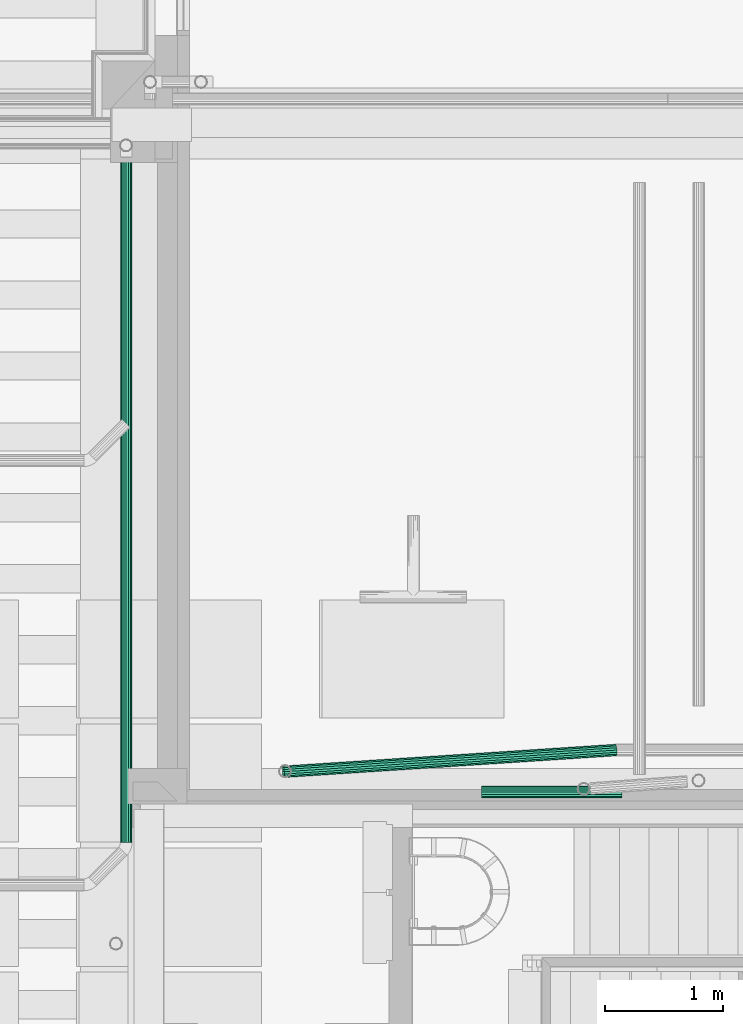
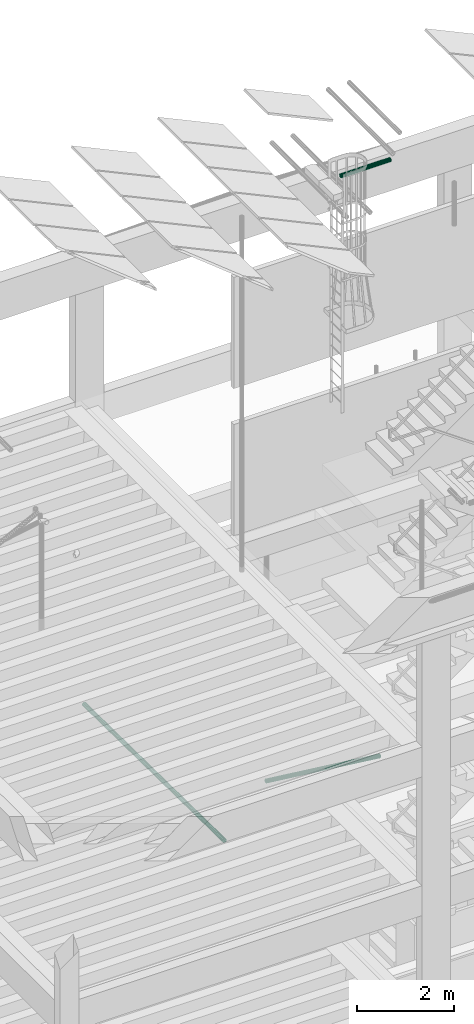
# One storey, part 51 of 106: 3 flow segments.
"""IFC2X3 building model written with IfcOpenShell, lengths in metres."""

from ifc_helpers import new_model, entity, si_unit, converted_unit, derived_unit, money_unit, direction, frame, origin_with_axes, place, context, subcontext, project, spatial, faceted_brep, material, type_object, element, save


model = new_model("IFC2X3")

# Units and contexts
model_context = context("Model", 3, precision=1e-05, world=origin_with_axes(), true_north=direction((0.0, 1.0)))
body_context = subcontext(model_context, "Body", "Model", "MODEL_VIEW", scale=1.0)
ifc_project = project(units=[si_unit("LENGTHUNIT", "METRE"), si_unit("AREAUNIT", "SQUARE_METRE"), si_unit("VOLUMEUNIT", "CUBIC_METRE"), si_unit("ABSORBEDDOSEUNIT", "GRAY"), si_unit("AMOUNTOFSUBSTANCEUNIT", "MOLE"), si_unit("DOSEEQUIVALENTUNIT", "SIEVERT"), si_unit("ELECTRICCAPACITANCEUNIT", "FARAD"), si_unit("ELECTRICCHARGEUNIT", "COULOMB"), si_unit("ELECTRICCONDUCTANCEUNIT", "SIEMENS"), si_unit("ELECTRICCURRENTUNIT", "AMPERE"), si_unit("ELECTRICRESISTANCEUNIT", "OHM"), si_unit("ELECTRICVOLTAGEUNIT", "VOLT"), si_unit("ENERGYUNIT", "JOULE"), si_unit("FORCEUNIT", "NEWTON"), si_unit("FREQUENCYUNIT", "HERTZ"), si_unit("ILLUMINANCEUNIT", "LUX"), si_unit("INDUCTANCEUNIT", "HENRY"), si_unit("LUMINOUSFLUXUNIT", "LUMEN"), si_unit("LUMINOUSINTENSITYUNIT", "CANDELA"), si_unit("MAGNETICFLUXDENSITYUNIT", "TESLA"), si_unit("MAGNETICFLUXUNIT", "WEBER"), si_unit("MASSUNIT", "GRAM"), converted_unit("PLANEANGLEUNIT", "degree", entity("IfcReal", 0.0174532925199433), si_unit("PLANEANGLEUNIT", "RADIAN"), dimensions=[0, 0, 0, 0, 0, 0, 0]), si_unit("POWERUNIT", "WATT"), si_unit("PRESSUREUNIT", "PASCAL"), si_unit("RADIOACTIVITYUNIT", "BECQUEREL"), si_unit("SOLIDANGLEUNIT", "STERADIAN"), si_unit("THERMODYNAMICTEMPERATUREUNIT", "KELVIN"), si_unit("TIMEUNIT", "SECOND"), derived_unit("ACCELERATIONUNIT", [(si_unit("LENGTHUNIT", "METRE"), 1), (si_unit("TIMEUNIT", "SECOND"), -2)]), derived_unit("ANGULARVELOCITYUNIT", [(converted_unit("PLANEANGLEUNIT", "degree", entity("IfcReal", 0.0174532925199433), si_unit("PLANEANGLEUNIT", "RADIAN"), dimensions=[0, 0, 0, 0, 0, 0, 0]), 1), (si_unit("TIMEUNIT", "SECOND"), -1)]), derived_unit("CURVATUREUNIT", [(converted_unit("PLANEANGLEUNIT", "degree", entity("IfcReal", 0.0174532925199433), si_unit("PLANEANGLEUNIT", "RADIAN"), dimensions=[0, 0, 0, 0, 0, 0, 0]), 1), (si_unit("LENGTHUNIT", "METRE"), -1)]), derived_unit("DYNAMICVISCOSITYUNIT", [(si_unit("PRESSUREUNIT", "PASCAL"), 1), (si_unit("TIMEUNIT", "SECOND"), 1)]), derived_unit("HEATFLUXDENSITYUNIT", [(si_unit("POWERUNIT", "WATT"), 1), (si_unit("LENGTHUNIT", "METRE"), -2)]), derived_unit("HEATINGVALUEUNIT", [(si_unit("ENERGYUNIT", "JOULE"), 1), (si_unit("MASSUNIT", "GRAM"), -1)]), derived_unit("INTEGERCOUNTRATEUNIT", [(si_unit("TIMEUNIT", "SECOND"), -1)]), derived_unit("IONCONCENTRATIONUNIT", [(si_unit("MASSUNIT", "GRAM"), 1), (si_unit("VOLUMEUNIT", "CUBIC_METRE"), -1)]), derived_unit("ISOTHERMALMOISTURECAPACITYUNIT", [(si_unit("VOLUMEUNIT", "CUBIC_METRE"), 1), (si_unit("MASSUNIT", "GRAM"), -1)]), derived_unit("KINEMATICVISCOSITYUNIT", [(si_unit("AREAUNIT", "SQUARE_METRE"), 1), (si_unit("TIMEUNIT", "SECOND"), -1)]), derived_unit("LINEARFORCEUNIT", [(si_unit("FORCEUNIT", "NEWTON"), 1), (si_unit("LENGTHUNIT", "METRE"), -1)]), derived_unit("LINEARMOMENTUNIT", [(si_unit("FORCEUNIT", "NEWTON"), 1), (si_unit("LENGTHUNIT", "METRE"), -1)]), derived_unit("LINEARSTIFFNESSUNIT", [(si_unit("FORCEUNIT", "NEWTON"), 1), (si_unit("LENGTHUNIT", "METRE"), -1)]), derived_unit("LINEARVELOCITYUNIT", [(si_unit("LENGTHUNIT", "METRE"), 1), (si_unit("TIMEUNIT", "SECOND"), -1)]), derived_unit("LUMINOUSINTENSITYDISTRIBUTIONUNIT", [(si_unit("LUMINOUSINTENSITYUNIT", "CANDELA"), 1), (si_unit("LUMINOUSFLUXUNIT", "LUMEN"), -1)]), derived_unit("MASSDENSITYUNIT", [(si_unit("MASSUNIT", "GRAM"), 1), (si_unit("VOLUMEUNIT", "CUBIC_METRE"), -1)]), derived_unit("MASSFLOWRATEUNIT", [(si_unit("MASSUNIT", "GRAM"), 1), (si_unit("TIMEUNIT", "SECOND"), -1)]), derived_unit("MASSPERLENGTHUNIT", [(si_unit("MASSUNIT", "GRAM"), 1), (si_unit("LENGTHUNIT", "METRE"), -1)]), derived_unit("MODULUSOFELASTICITYUNIT", [(si_unit("FORCEUNIT", "NEWTON"), 1), (si_unit("AREAUNIT", "SQUARE_METRE"), -1)]), derived_unit("MODULUSOFLINEARSUBGRADEREACTIONUNIT", [(si_unit("FORCEUNIT", "NEWTON"), 1), (si_unit("LENGTHUNIT", "METRE"), -2)]), derived_unit("MODULUSOFROTATIONALSUBGRADEREACTIONUNIT", [(si_unit("FORCEUNIT", "NEWTON"), 1), (si_unit("LENGTHUNIT", "METRE"), 1)]), derived_unit("MODULUSOFSUBGRADEREACTIONUNIT", [(si_unit("FORCEUNIT", "NEWTON"), 1), (si_unit("VOLUMEUNIT", "CUBIC_METRE"), -1)]), derived_unit("MOISTUREDIFFUSIVITYUNIT", [(si_unit("VOLUMEUNIT", "CUBIC_METRE"), 1), (si_unit("TIMEUNIT", "SECOND"), -1)]), derived_unit("MOLECULARWEIGHTUNIT", [(si_unit("MASSUNIT", "GRAM"), 1), (si_unit("AMOUNTOFSUBSTANCEUNIT", "MOLE"), -1)]), derived_unit("PLANARFORCEUNIT", [(si_unit("FORCEUNIT", "NEWTON"), 1), (si_unit("LENGTHUNIT", "METRE"), -2)]), derived_unit("ROTATIONALFREQUENCYUNIT", [(si_unit("TIMEUNIT", "SECOND"), -1)]), derived_unit("ROTATIONALMASSUNIT", [(si_unit("MASSUNIT", "GRAM"), 1), (si_unit("LENGTHUNIT", "METRE"), 2)]), derived_unit("ROTATIONALSTIFFNESSUNIT", [(si_unit("FORCEUNIT", "NEWTON"), 1), (si_unit("LENGTHUNIT", "METRE"), 1), (converted_unit("PLANEANGLEUNIT", "degree", entity("IfcReal", 0.0174532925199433), si_unit("PLANEANGLEUNIT", "RADIAN"), dimensions=[0, 0, 0, 0, 0, 0, 0]), -1)]), derived_unit("SECTIONAREAINTEGRALUNIT", [(si_unit("LENGTHUNIT", "METRE"), 5)]), derived_unit("SECTIONMODULUSUNIT", [(si_unit("LENGTHUNIT", "METRE"), 3)]), derived_unit("SHEARMODULUSUNIT", [(si_unit("FORCEUNIT", "NEWTON"), 1), (si_unit("AREAUNIT", "SQUARE_METRE"), -1)]), derived_unit("SOUNDPOWERUNIT", [(si_unit("ENERGYUNIT", "JOULE"), 1), (si_unit("TIMEUNIT", "SECOND"), -1)]), derived_unit("SPECIFICHEATCAPACITYUNIT", [(si_unit("FORCEUNIT", "NEWTON"), 1), (si_unit("MASSUNIT", "GRAM"), -1), (si_unit("THERMODYNAMICTEMPERATUREUNIT", "KELVIN"), -1)]), derived_unit("TEMPERATUREGRADIENTUNIT", [(si_unit("THERMODYNAMICTEMPERATUREUNIT", "KELVIN"), 1), (si_unit("LENGTHUNIT", "METRE"), -1)]), derived_unit("THERMALADMITTANCEUNIT", [(si_unit("POWERUNIT", "WATT"), 1), (si_unit("AREAUNIT", "SQUARE_METRE"), -1), (si_unit("THERMODYNAMICTEMPERATUREUNIT", "KELVIN"), -1)]), derived_unit("THERMALCONDUCTANCEUNIT", [(si_unit("POWERUNIT", "WATT"), 1), (si_unit("LENGTHUNIT", "METRE"), -1), (si_unit("THERMODYNAMICTEMPERATUREUNIT", "KELVIN"), -1)]), derived_unit("THERMALEXPANSIONCOEFFICIENTUNIT", [(si_unit("THERMODYNAMICTEMPERATUREUNIT", "KELVIN"), -1)]), derived_unit("THERMALRESISTANCEUNIT", [(si_unit("AREAUNIT", "SQUARE_METRE"), 1), (si_unit("POWERUNIT", "WATT"), -1)]), derived_unit("THERMALTRANSMITTANCEUNIT", [(si_unit("POWERUNIT", "WATT"), 1), (si_unit("AREAUNIT", "SQUARE_METRE"), -1), (si_unit("THERMODYNAMICTEMPERATUREUNIT", "KELVIN"), -1)]), derived_unit("TORQUEUNIT", [(si_unit("FORCEUNIT", "NEWTON"), 1), (si_unit("LENGTHUNIT", "METRE"), 1)]), derived_unit("VAPORPERMEABILITYUNIT", [(si_unit("MASSUNIT", "GRAM"), 1), (si_unit("TIMEUNIT", "SECOND"), -1)]), derived_unit("VOLUMETRICFLOWRATEUNIT", [(si_unit("VOLUMEUNIT", "CUBIC_METRE"), 1), (si_unit("TIMEUNIT", "SECOND"), -1)]), derived_unit("WARPINGCONSTANTUNIT", [(si_unit("LENGTHUNIT", "METRE"), 6)]), derived_unit("WARPINGMOMENTUNIT", [(si_unit("FORCEUNIT", "NEWTON"), 1), (si_unit("LENGTHUNIT", "METRE"), 2)]), money_unit("GBP")], contexts=[model_context])

# Site, building, storey
site_placement = place(None, origin_with_axes())
site = spatial("IfcSite", under=ifc_project, at=site_placement, Name="Site", CompositionType="ELEMENT")
building_placement = place(site_placement, origin_with_axes())
building = spatial("IfcBuilding", under=site, at=building_placement, Name="Building01", CompositionType="ELEMENT")
storey_placement = place(building_placement, origin_with_axes())
storey = spatial("IfcBuildingStorey", under=building, at=storey_placement, Name="GF", CompositionType="ELEMENT", Elevation=0.0)

# Flow segment
ifc_material_1 = material(Name="M_BSUK_Ventilation")
duct_segment_type = type_object("IfcDuctSegmentType", Name="M-RoundDuct", PredefinedType="RIGIDSEGMENT")
flow_segment_1_placement = place(storey_placement, frame((13.1, 8.947353, 20.03), z_axis=(0.0, 0.0, 1.0), x_axis=(-1.0, 0.0, 0.0)))
element("IfcFlowSegment", 1, at=flow_segment_1_placement, inside=storey, type_object=duct_segment_type, material=ifc_material_1, Name="M-RoundDuct", ObjectType="M-RoundDuct", context=body_context, shape_type="Brep", body=[
    faceted_brep([(1.188137, 0.0, -0.05), (0.0, 0.0, -0.05), (0.0, 0.019134, -0.046194), (1.188137, 0.019134, -0.046194), (0.0, 0.035355, -0.035355), (1.188137, 0.035355, -0.035355), (0.0, 0.046194, -0.019134), (1.188137, 0.046194, -0.019134), (0.0, 0.05, 0.0), (1.188137, 0.05, 0.0), (0.0, 0.046194, 0.019134), (1.188137, 0.046194, 0.019134), (0.0, 0.035355, 0.035355), (1.188137, 0.035355, 0.035355), (0.0, 0.019134, 0.046194), (1.188137, 0.019134, 0.046194), (0.0, 0.0, 0.05), (1.188137, 0.0, 0.05), (0.0, -0.019134, 0.046194), (1.188137, -0.019134, 0.046194), (0.0, -0.035355, 0.035355), (1.188137, -0.035355, 0.035355), (0.0, -0.046194, 0.019134), (1.188137, -0.046194, 0.019134), (0.0, -0.05, 0.0), (1.188137, -0.05, 0.0), (0.0, -0.046194, -0.019134), (1.188137, -0.046194, -0.019134), (0.0, -0.035355, -0.035355), (1.188137, -0.035355, -0.035355), (0.0, -0.019134, -0.046194), (1.188137, -0.019134, -0.046194)], [[[0, 1, 2, 3]], [[3, 2, 4, 5]], [[5, 4, 6, 7]], [[7, 6, 8, 9]], [[9, 8, 10, 11]], [[11, 10, 12, 13]], [[13, 12, 14, 15]], [[15, 14, 16, 17]], [[17, 16, 18, 19]], [[19, 18, 20, 21]], [[21, 20, 22, 23]], [[23, 22, 24, 25]], [[25, 24, 26, 27]], [[27, 26, 28, 29]], [[29, 28, 30, 31]], [[31, 30, 1, 0]]]),
])

# Space
space_placement = place(storey_placement, frame((3.380525, 16.69365, 0.216987), z_axis=(0.0, 0.0, 1.0), x_axis=(-1.0, 0.0, 0.0)))
space = spatial("IfcSpace", under=storey, at=space_placement, Name="0", CompositionType="ELEMENT", InteriorOrExteriorSpace="NOTDEFINED")

# Flow segments
ifc_material_2 = material(Name="M_BSUK_ColdWater")
pipe_segment_type = type_object("IfcPipeSegmentType", Name="M-BmpStraightpipe-DefaultPipe", PredefinedType="RIGIDSEGMENT")
flow_segment_2_placement = place(storey_placement, frame((8.909935, 8.519261, 4.617185), z_axis=(0.0, 0.01249902, 0.99992188), x_axis=(0.0, 0.99992188, -0.01249902)))
element("IfcFlowSegment", 2, at=flow_segment_2_placement, inside=space, type_object=pipe_segment_type, material=ifc_material_2, Name="M-BmpStraightpipe-DefaultPipe", ObjectType="M-BmpStraightpipe-DefaultPipe", context=body_context, shape_type="Brep", body=[
    faceted_brep([(5.796236, 0.0, -0.05), (0.0, 0.0, -0.05), (0.0, 0.019134, -0.046194), (5.796236, 0.019134, -0.046194), (0.0, 0.035355, -0.035355), (5.796236, 0.035355, -0.035355), (0.0, 0.046194, -0.019134), (5.796236, 0.046194, -0.019134), (0.0, 0.05, 0.0), (5.796236, 0.05, 0.0), (0.0, 0.046194, 0.019134), (5.796236, 0.046194, 0.019134), (0.0, 0.035355, 0.035355), (5.796236, 0.035355, 0.035355), (0.0, 0.019134, 0.046194), (5.796236, 0.019134, 0.046194), (0.0, 0.0, 0.05), (5.796236, 0.0, 0.05), (0.0, -0.019134, 0.046194), (5.796236, -0.019134, 0.046194), (0.0, -0.035355, 0.035355), (5.796236, -0.035355, 0.035355), (0.0, -0.046194, 0.019134), (5.796236, -0.046194, 0.019134), (0.0, -0.05, 0.0), (5.796236, -0.05, 0.0), (0.0, -0.046194, -0.019134), (5.796236, -0.046194, -0.019134), (0.0, -0.035355, -0.035355), (5.796236, -0.035355, -0.035355), (0.0, -0.019134, -0.046194), (5.796236, -0.019134, -0.046194)], [[[0, 1, 2, 3]], [[3, 2, 4, 5]], [[5, 4, 6, 7]], [[7, 6, 8, 9]], [[9, 8, 10, 11]], [[11, 10, 12, 13]], [[13, 12, 14, 15]], [[15, 14, 16, 17]], [[17, 16, 18, 19]], [[19, 18, 20, 21]], [[21, 20, 22, 23]], [[23, 22, 24, 25]], [[25, 24, 26, 27]], [[27, 26, 28, 29]], [[29, 28, 30, 31]], [[31, 30, 1, 0]]]),
])
flow_segment_3_placement = place(storey_placement, frame((10.23838, 9.119633, 5.289716), z_axis=(0.16183045, 0.00080392, 0.98681825), x_axis=(0.98476723, 0.06431357, -0.16154649)))
element("IfcFlowSegment", 3, at=flow_segment_3_placement, inside=storey, type_object=pipe_segment_type, material=ifc_material_2, Name="M-BmpStraightpipe-DefaultPipe", ObjectType="M-BmpStraightpipe-DefaultPipe", context=body_context, shape_type="Brep", body=[
    faceted_brep([(2.855541, 0.0, -0.05), (0.0, 0.0, -0.05), (0.0, 0.019134, -0.046194), (2.855541, 0.019134, -0.046194), (0.0, 0.035355, -0.035355), (2.855541, 0.035355, -0.035355), (0.0, 0.046194, -0.019134), (2.855541, 0.046194, -0.019134), (0.0, 0.05, 0.0), (2.855541, 0.05, 0.0), (0.0, 0.046194, 0.019134), (2.855541, 0.046194, 0.019134), (0.0, 0.035355, 0.035355), (2.855541, 0.035355, 0.035355), (0.0, 0.019134, 0.046194), (2.855541, 0.019134, 0.046194), (0.0, 0.0, 0.05), (2.855541, 0.0, 0.05), (0.0, -0.019134, 0.046194), (2.855541, -0.019134, 0.046194), (0.0, -0.035355, 0.035355), (2.855541, -0.035355, 0.035355), (0.0, -0.046194, 0.019134), (2.855541, -0.046194, 0.019134), (0.0, -0.05, 0.0), (2.855541, -0.05, 0.0), (0.0, -0.046194, -0.019134), (2.855541, -0.046194, -0.019134), (0.0, -0.035355, -0.035355), (2.855541, -0.035355, -0.035355), (0.0, -0.019134, -0.046194), (2.855541, -0.019134, -0.046194)], [[[0, 1, 2, 3]], [[3, 2, 4, 5]], [[5, 4, 6, 7]], [[7, 6, 8, 9]], [[9, 8, 10, 11]], [[11, 10, 12, 13]], [[13, 12, 14, 15]], [[15, 14, 16, 17]], [[17, 16, 18, 19]], [[19, 18, 20, 21]], [[21, 20, 22, 23]], [[23, 22, 24, 25]], [[25, 24, 26, 27]], [[27, 26, 28, 29]], [[29, 28, 30, 31]], [[31, 30, 1, 0]]]),
])

save(model, "model.ifc")
